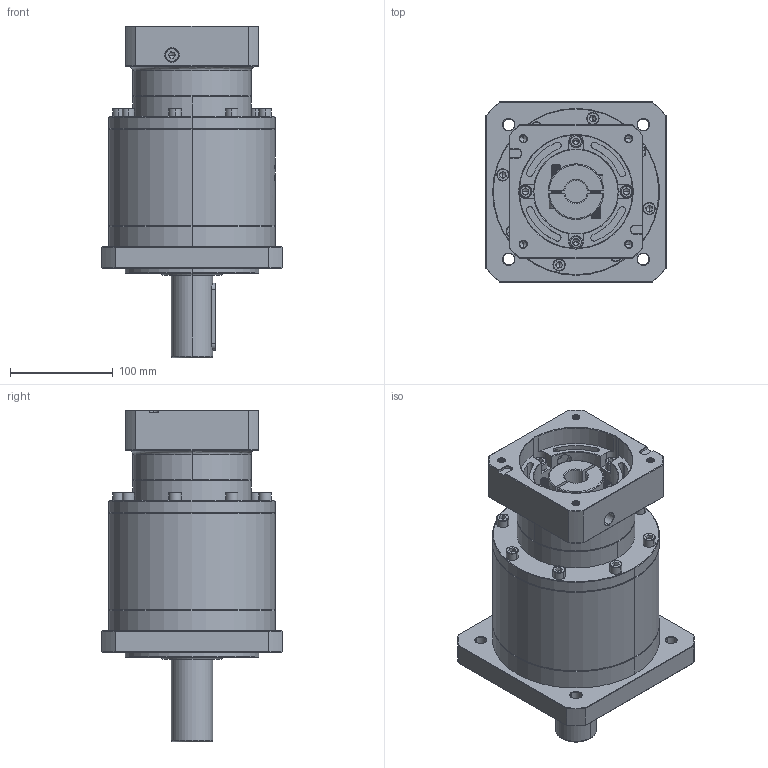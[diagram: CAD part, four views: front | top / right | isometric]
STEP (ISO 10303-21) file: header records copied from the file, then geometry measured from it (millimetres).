
FILE_DESCRIPTION (( 'STEP AP214' ), '1' );
FILE_NAME ('ZF160-D40-L3-22-110-145-M8.step', '2023-03-22T03:57:37', ( '' ), ( '' ), 'SwSTEP 2.0', 'SolidWorks 2016', '' );
FILE_SCHEMA (( 'AUTOMOTIVE_DESIGN' ));
Length unit declared in the file: millimetre
Products named in the file (1): ZF160-D40-L3-22-110-145-M8
Bounding box: 175 x 175 x 322.2 mm (x, y, z)
Volume: 4203935.6 mm3; surface area: 297331.6 mm2
Topology: 6 solids, 6 shells, 1914 faces, 4865 edges, 3071 vertices
Faces by surface type: plane 772, cylinder 511, cone 361, bspline 214, torus 56
Entity records: 102628 total; most frequent: CARTESIAN_POINT 37730, ORIENTED_EDGE 9622, DIRECTION 8439, EDGE_CURVE 4811, VERTEX_POINT 3071, AXIS2_PLACEMENT_3D 2931, VECTOR 2577, LINE 2577
